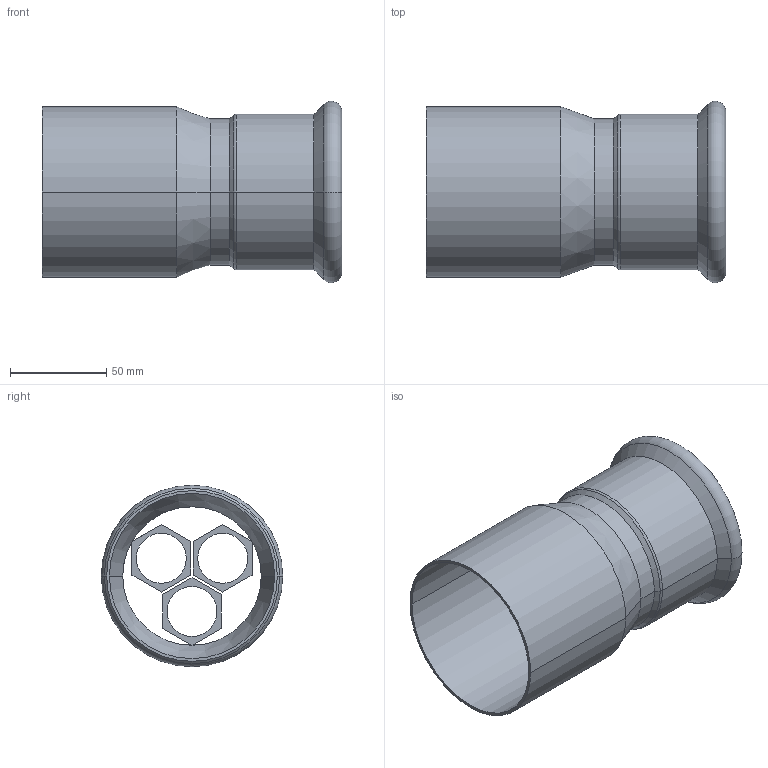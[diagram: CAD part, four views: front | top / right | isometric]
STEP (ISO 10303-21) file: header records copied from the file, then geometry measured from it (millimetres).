
FILE_DESCRIPTION(('OneSpaceDesigner STEP Export'),'2;1');
FILE_NAME('R2707 76x89.stp','2010-06-09T14:07:23',(''),(''),'OneSpace Designer STEP processor for AP214 (Solid Model)','OneSpace Modeling 15.00A 14-Mar-2007 (C) CoCreate Software GmbH','');
FILE_SCHEMA(('AUTOMOTIVE_DESIGN { 1 0 10303 214 1 1 1 1 }'));
Length unit declared in the file: millimetre
Products named in the file (2): R2707_76x89
Assembly tree (1 placements, depth 2):
  R2707_76x89
    R2707_76x89
Bounding box: 156 x 94.48 x 94.48 mm (x, y, z)
Volume: 90193.7 mm3; surface area: 89459.2 mm2
Topology: 1 solids, 1 shells, 66 faces, 160 edges, 101 vertices
Faces by surface type: plane 31, cylinder 23, cone 8, torus 4
Entity records: 1707 total; most frequent: ORIENTED_EDGE 320, CARTESIAN_POINT 272, DIRECTION 245, EDGE_CURVE 160, VERTEX_POINT 101, VECTOR 97, LINE 97, EDGE_LOOP 79
